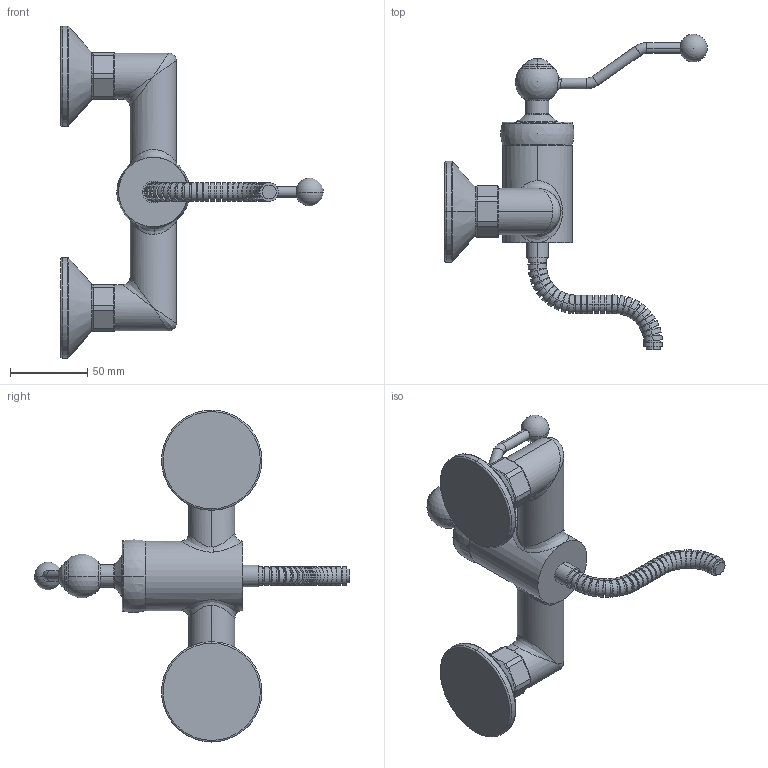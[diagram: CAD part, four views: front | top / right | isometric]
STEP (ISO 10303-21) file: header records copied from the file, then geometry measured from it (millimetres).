
FILE_DESCRIPTION (( 'STEP AP214' ), '1' );
FILE_NAME ('Paini Duomo 88F3511 ñìåñèòåëü äëÿ äóøà.STEP', '2020-03-26T13:31:02', ( '' ), ( '' ), 'SwSTEP 2.0', 'SolidWorks 2017', '' );
FILE_SCHEMA (( 'AUTOMOTIVE_DESIGN' ));
Length unit declared in the file: millimetre
Products named in the file (1): Paini Duomo 88F3511 ñìåñèòåëü äëÿ äóøà
Bounding box: 170.06 x 204.4 x 215 mm (x, y, z)
Volume: 385315.3 mm3; surface area: 58949.3 mm2
Topology: 1 solids, 1 shells, 378 faces, 858 edges, 528 vertices
Faces by surface type: cylinder 202, plane 112, torus 30, bspline 22, cone 6, sphere 6
Entity records: 13108 total; most frequent: CARTESIAN_POINT 4980, DIRECTION 1730, ORIENTED_EDGE 1670, EDGE_CURVE 835, AXIS2_PLACEMENT_3D 725, VERTEX_POINT 519, EDGE_LOOP 438, FACE_OUTER_BOUND 378
